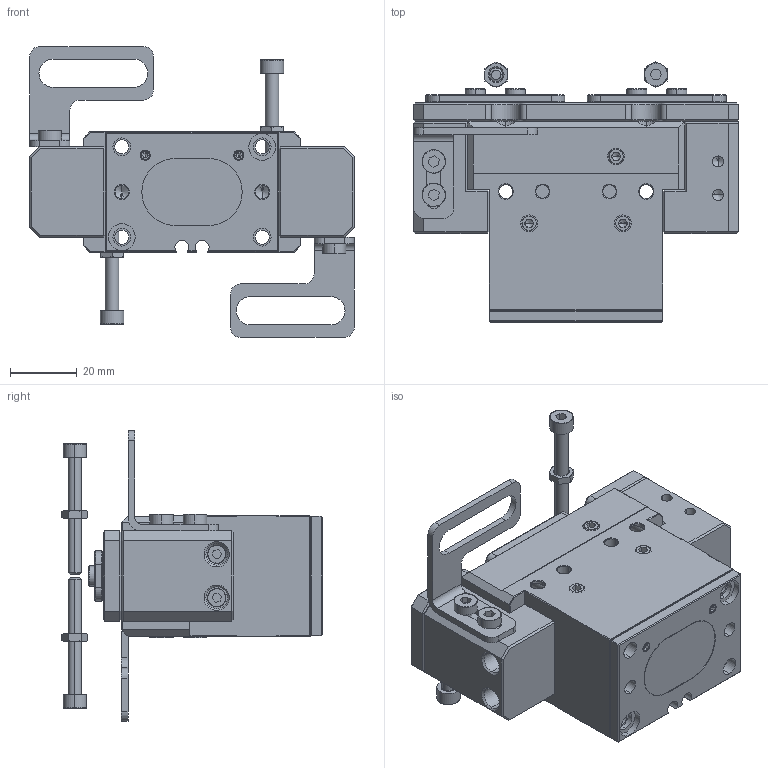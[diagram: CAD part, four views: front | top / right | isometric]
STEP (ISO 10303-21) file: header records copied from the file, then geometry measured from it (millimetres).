
FILE_DESCRIPTION (( 'STEP AP203' ), '1' );
FILE_NAME ('EZ6-2-NO-F.STEP', '2026-09-23T06:54:38', ( '' ), ( '' ), 'SwSTEP 2.0', 'SolidWorks 2026', '' );
FILE_SCHEMA (( 'CONFIG_CONTROL_DESIGN' ));
Products named in the file (1): EZ6-2-NO-F
Bounding box: 97 x 77.79 x 87 mm (x, y, z)
Volume: 138481.6 mm3; surface area: 58611.2 mm2
Topology: 39 solids, 39 shells, 1524 faces, 3723 edges, 2316 vertices
Faces by surface type: plane 718, cylinder 380, cone 320, bspline 106
Entity records: 48200 total; most frequent: CARTESIAN_POINT 12408, DIRECTION 7469, ORIENTED_EDGE 7340, EDGE_CURVE 3670, AXIS2_PLACEMENT_3D 2649, VERTEX_POINT 2316, VECTOR 2171, LINE 2171
